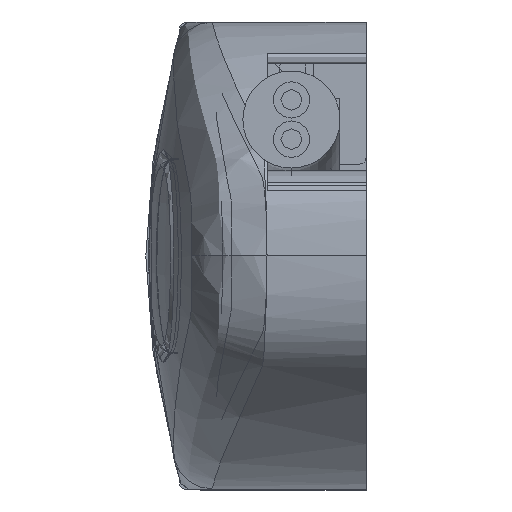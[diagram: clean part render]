
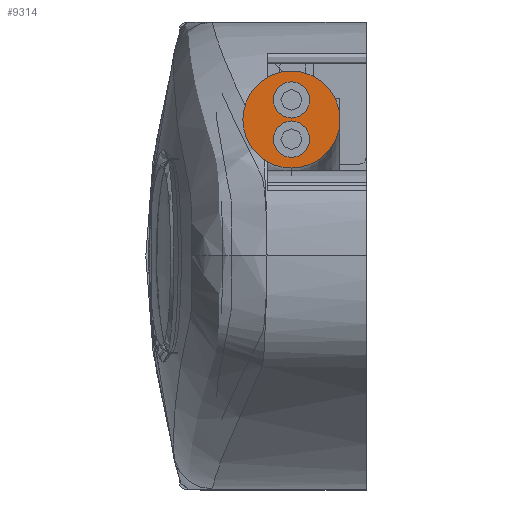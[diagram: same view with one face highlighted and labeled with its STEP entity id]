
A CAD part, left-side view. The second image highlights one B-rep face of the part: STEP entity #9314.
In plain terms, the highlighted planar face has unit normal (-1, 0, 0).
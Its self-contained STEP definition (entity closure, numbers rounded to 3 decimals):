
#135 = DIRECTION ( 'NONE',  ( 1., 0., 0. ) ) ;
#617 = DIRECTION ( 'NONE',  ( 1., 0., 0. ) ) ;
#1093 = DIRECTION ( 'NONE',  ( 1., 0., 0. ) ) ;
#1402 = CARTESIAN_POINT ( 'NONE',  ( -323.41, 0., -5.95 ) ) ;
#1641 = CIRCLE ( 'NONE', #8525, 0.7 ) ;
#3267 = CARTESIAN_POINT ( 'NONE',  ( -323.41, 0., -5.25 ) ) ;
#3326 = DIRECTION ( 'NONE',  ( 0., 0., -1. ) ) ;
#4393 = PLANE ( 'NONE',  #22812 ) ;
#4423 = ORIENTED_EDGE ( 'NONE', *, *, #24501, .F. ) ;
#4838 = CARTESIAN_POINT ( 'NONE',  ( -323.41, 0., -4.45 ) ) ;
#4860 = EDGE_LOOP ( 'NONE', ( #21363, #12905 ) ) ;
#4866 = ORIENTED_EDGE ( 'NONE', *, *, #14079, .F. ) ;
#5506 = CIRCLE ( 'NONE', #20377, 1.85 ) ;
#5808 = AXIS2_PLACEMENT_3D ( 'NONE', #1402, #14774, #3326 ) ;
#6145 = VERTEX_POINT ( 'NONE', #3267 ) ;
#6762 = DIRECTION ( 'NONE',  ( 0., 0., 1. ) ) ;
#7673 = DIRECTION ( 'NONE',  ( -1., 0., 0. ) ) ;
#7705 = AXIS2_PLACEMENT_3D ( 'NONE', #10410, #23729, #12349 ) ;
#8525 = AXIS2_PLACEMENT_3D ( 'NONE', #4838, #18237, #6762 ) ;
#9314 = ADVANCED_FACE ( 'NONE', ( #10529, #12614, #16513 ), #4393, .F. ) ;
#9489 = CARTESIAN_POINT ( 'NONE',  ( -323.41, 0., -5.15 ) ) ;
#9964 = CARTESIAN_POINT ( 'NONE',  ( -323.41, 0., -7.05 ) ) ;
#10410 = CARTESIAN_POINT ( 'NONE',  ( -323.41, 0., -5.95 ) ) ;
#10440 = VERTEX_POINT ( 'NONE', #9964 ) ;
#10529 = FACE_BOUND ( 'NONE', #17956, .T. ) ;
#11064 = EDGE_CURVE ( 'NONE', #14305, #16798, #23059, .T. ) ;
#11592 = CARTESIAN_POINT ( 'NONE',  ( -323.41, 0., -5.2 ) ) ;
#12090 = CARTESIAN_POINT ( 'NONE',  ( -323.41, 0., -5.2 ) ) ;
#12094 = EDGE_LOOP ( 'NONE', ( #4866, #14445 ) ) ;
#12290 = AXIS2_PLACEMENT_3D ( 'NONE', #19118, #7673, #21023 ) ;
#12349 = DIRECTION ( 'NONE',  ( 0., 0., -1. ) ) ;
#12420 = VERTEX_POINT ( 'NONE', #14944 ) ;
#12557 = CARTESIAN_POINT ( 'NONE',  ( -323.41, 0., -5.2 ) ) ;
#12614 = FACE_BOUND ( 'NONE', #4860, .T. ) ;
#12725 = CARTESIAN_POINT ( 'NONE',  ( -323.41, 0., -3.35 ) ) ;
#12905 = ORIENTED_EDGE ( 'NONE', *, *, #11064, .F. ) ;
#13514 = DIRECTION ( 'NONE',  ( 0., 0., -1. ) ) ;
#14003 = DIRECTION ( 'NONE',  ( 0., 0., -1. ) ) ;
#14079 = EDGE_CURVE ( 'NONE', #17337, #10440, #24398, .T. ) ;
#14305 = VERTEX_POINT ( 'NONE', #15683 ) ;
#14445 = ORIENTED_EDGE ( 'NONE', *, *, #24318, .F. ) ;
#14474 = DIRECTION ( 'NONE',  ( 0., 0., -1. ) ) ;
#14774 = DIRECTION ( 'NONE',  ( -1., 0., 0. ) ) ;
#14803 = CIRCLE ( 'NONE', #5808, 0.7 ) ;
#14944 = CARTESIAN_POINT ( 'NONE',  ( -323.41, 0., -6.65 ) ) ;
#15683 = CARTESIAN_POINT ( 'NONE',  ( -323.41, 0., -3.75 ) ) ;
#16513 = FACE_OUTER_BOUND ( 'NONE', #12094, .T. ) ;
#16798 = VERTEX_POINT ( 'NONE', #9489 ) ;
#17337 = VERTEX_POINT ( 'NONE', #12725 ) ;
#17956 = EDGE_LOOP ( 'NONE', ( #4423, #20355 ) ) ;
#18172 = EDGE_CURVE ( 'NONE', #16798, #14305, #1641, .T. ) ;
#18237 = DIRECTION ( 'NONE',  ( -1., 0., 0. ) ) ;
#19118 = CARTESIAN_POINT ( 'NONE',  ( -323.41, 0., -4.45 ) ) ;
#20355 = ORIENTED_EDGE ( 'NONE', *, *, #22194, .F. ) ;
#20377 = AXIS2_PLACEMENT_3D ( 'NONE', #12557, #1093, #14474 ) ;
#20390 = CIRCLE ( 'NONE', #7705, 0.7 ) ;
#21023 = DIRECTION ( 'NONE',  ( 0., 0., 1. ) ) ;
#21363 = ORIENTED_EDGE ( 'NONE', *, *, #18172, .F. ) ;
#22194 = EDGE_CURVE ( 'NONE', #6145, #12420, #20390, .T. ) ;
#22622 = AXIS2_PLACEMENT_3D ( 'NONE', #11592, #135, #13514 ) ;
#22812 = AXIS2_PLACEMENT_3D ( 'NONE', #12090, #617, #14003 ) ;
#23059 = CIRCLE ( 'NONE', #12290, 0.7 ) ;
#23729 = DIRECTION ( 'NONE',  ( -1., 0., 0. ) ) ;
#24318 = EDGE_CURVE ( 'NONE', #10440, #17337, #5506, .T. ) ;
#24398 = CIRCLE ( 'NONE', #22622, 1.85 ) ;
#24501 = EDGE_CURVE ( 'NONE', #12420, #6145, #14803, .T. ) ;
